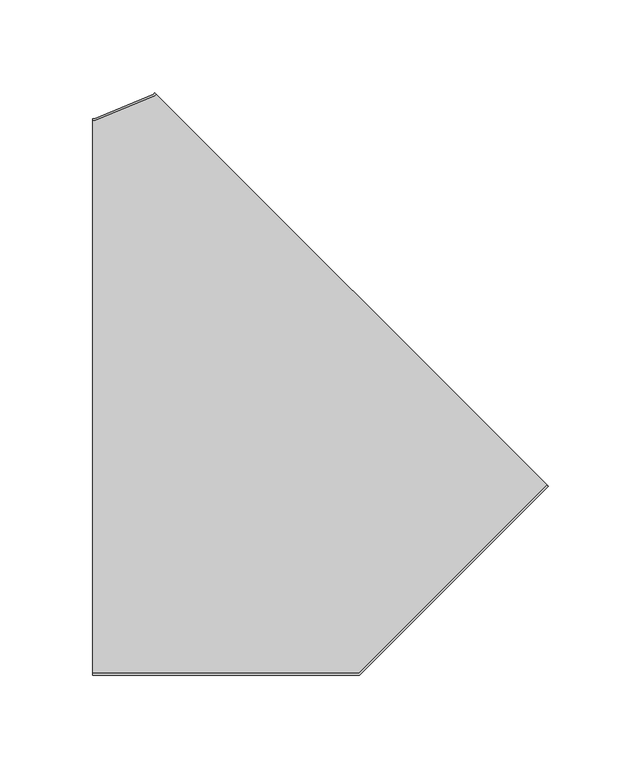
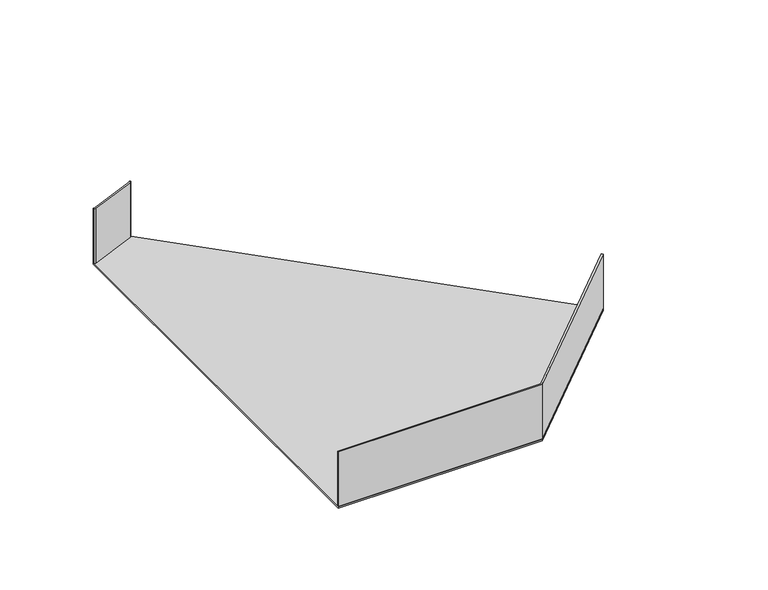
"""IFC4 building model written with IfcOpenShell, lengths in millimetres: cable carrier fitting geometry, BAKS_Horizontal bend : KKBL/KKMBL_H42."""

import ifcopenshell
import ifcopenshell.guid

model = None  # the IFC model being written
_history = None  # IfcOwnerHistory: only IFC2X3 demands one
_inside = {}  # id of a spatial element -> (the spatial element, [elements in it])
_under = {}  # id of a project, library or spatial element -> (it, [spatial elements below it])
_declared = {}  # id of a project -> (the project, [libraries it declares])
_typed = {}  # id of a type object -> (the type object, [elements of that type])
_made_of = {}  # id of a material, layer set ... -> (it, [elements and type objects made of it])


def new_model(schema):
    """Start an empty IFC model of exactly this schema.

    Asked for "IFC4X3", IfcOpenShell would pick the latest addendum, in which some entities
    have other attributes; the version numbers below select the first issue.
    IFC2X3 requires an IfcOwnerHistory on every rooted entity: one is made here for all.
    """
    global model, _history
    if schema == "IFC4X3":
        model = ifcopenshell.file(schema_version=(4, 3, 0, 0))
    else:
        model = ifcopenshell.file(schema=schema)
    _inside.clear()
    _under.clear()
    _declared.clear()
    _typed.clear()
    _made_of.clear()
    _history = None
    if model.schema == "IFC2X3":
        org = make("IfcOrganization", Name="unknown")
        user = make(
            "IfcPersonAndOrganization",
            ThePerson=make("IfcPerson", FamilyName="unknown"),
            TheOrganization=org,
        )
        app = make(
            "IfcApplication",
            ApplicationDeveloper=org,
            Version="unknown",
            ApplicationFullName="unknown",
            ApplicationIdentifier="unknown",
        )
        _history = make(
            "IfcOwnerHistory",
            OwningUser=user,
            OwningApplication=app,
            ChangeAction="ADDED",
            CreationDate=0,
        )
    return model


def make(cls, **values):
    """One entity of the class cls with the attributes given. An attribute that is None is left unset."""
    return model.create_entity(
        cls, **{name: value for name, value in values.items() if value is not None}
    )


def rooted(cls, **values):
    """An entity with a GlobalId (a new one), such as an element, a storey or a relation."""
    return make(cls, GlobalId=ifcopenshell.guid.new(), OwnerHistory=_history, **values)


def si_unit(unit_type, name, prefix=None):
    """IfcSIUnit, for example si_unit("LENGTHUNIT", "METRE", prefix="MILLI")."""
    return make("IfcSIUnit", UnitType=unit_type, Prefix=prefix, Name=name)


def assignment(units):
    """IfcUnitAssignment: the units of a project."""
    return None if units is None else make("IfcUnitAssignment", Units=units)


def point(xyz):
    """IfcCartesianPoint."""
    return None if xyz is None else make("IfcCartesianPoint", Coordinates=xyz)


def direction(xyz):
    """IfcDirection."""
    return None if xyz is None else make("IfcDirection", DirectionRatios=xyz)


def frame(location, z_axis=None, x_axis=None):
    """IfcAxis2Placement3D, a coordinate frame: its origin and axes. An axis left out is left unset."""
    return make(
        "IfcAxis2Placement3D",
        Location=point(location),
        Axis=direction(z_axis),
        RefDirection=direction(x_axis),
    )


def origin():
    """The frame at (0, 0, 0) with its axes left unset."""
    return frame((0.0, 0.0, 0.0))


def place(relative_to, where):
    """IfcLocalPlacement: puts the frame where relative to a parent placement (None: the world)."""
    return make(
        "IfcLocalPlacement", PlacementRelTo=relative_to, RelativePlacement=where
    )


def context(
    kind, dimensions, precision=None, world=None, true_north=None, identifier=None
):
    """IfcGeometricRepresentationContext, for example the 3D "Model" context."""
    return make(
        "IfcGeometricRepresentationContext",
        ContextIdentifier=identifier,
        ContextType=kind,
        CoordinateSpaceDimension=dimensions,
        Precision=precision,
        WorldCoordinateSystem=world,
        TrueNorth=true_north,
    )


def project(units=None, contexts=None):
    """IfcProject with its units and contexts."""
    return rooted(
        "IfcProject",
        Name="project",
        RepresentationContexts=contexts,
        UnitsInContext=assignment(units),
    )


def spatial(cls, under=None, at=None, **own):
    """A site, building, storey or space (cls), placed at a placement, below another one or the project."""
    s = rooted(cls, ObjectPlacement=at, **own)
    if under is not None:
        _under.setdefault(under.id(), (under, []))[1].append(s)
    return s


def polyline(points):
    """IfcPolyline through the points."""
    return make("IfcPolyline", Points=[point(p) for p in points])


def outline(outer, holes=None, kind="AREA"):
    """IfcArbitraryClosedProfileDef: a profile drawn as a closed curve; with holes, ...WithVoids."""
    if holes is None:
        return make("IfcArbitraryClosedProfileDef", ProfileType=kind, OuterCurve=outer)
    return make(
        "IfcArbitraryProfileDefWithVoids",
        ProfileType=kind,
        OuterCurve=outer,
        InnerCurves=holes,
    )


def extrude(swept, where, along, depth):
    """IfcExtrudedAreaSolid: the profile swept, set in the frame where, extruded along a direction by depth."""
    return make(
        "IfcExtrudedAreaSolid",
        SweptArea=swept,
        Position=where,
        ExtrudedDirection=direction(along),
        Depth=depth,
    )


def faces_of(points, faces, orient=None, outer=None):
    """IfcFace entities. A face is a list of loops; a loop is a list of indices into points, from 0.

    orient and outer hold one flag for each loop. By default every Orientation is true, the
    first loop of a face is its IfcFaceOuterBound and the others are IfcFaceBound.
    """
    made = []
    for i, loops in enumerate(faces):
        bounds = []
        for j, loop in enumerate(loops):
            is_outer = j == 0 if outer is None else outer[i][j]
            bounds.append(
                make(
                    "IfcFaceOuterBound" if is_outer else "IfcFaceBound",
                    Bound=make("IfcPolyLoop", Polygon=[points[k] for k in loop]),
                    Orientation=True if orient is None else orient[i][j],
                )
            )
        made.append(make("IfcFace", Bounds=bounds))
    return made


def faceted_brep(points, faces, orient=None, outer=None, voids=None):
    """IfcFacetedBrep: a solid bounded by flat faces; with voids (closed shells), ...WithVoids."""
    shared = [point(p) for p in points]
    hull = make("IfcClosedShell", CfsFaces=faces_of(shared, faces, orient, outer))
    if voids is None:
        return make("IfcFacetedBrep", Outer=hull)
    return make(
        "IfcFacetedBrepWithVoids",
        Outer=hull,
        Voids=[
            make(cls, CfsFaces=faces_of(shared, fs, o, b)) for cls, fs, o, b in voids
        ],
    )


def shape(context_of_items, identifier, shape_type, items):
    """IfcShapeRepresentation: the items that make up one representation, for example the "Body"."""
    return make(
        "IfcShapeRepresentation",
        ContextOfItems=context_of_items,
        RepresentationIdentifier=identifier,
        RepresentationType=shape_type,
        Items=items,
    )


def source(mapping_origin, context_of_items, identifier, shape_type, items):
    """IfcRepresentationMap: a shape defined once, which mapped items show again and again."""
    return make(
        "IfcRepresentationMap",
        MappingOrigin=mapping_origin,
        MappedRepresentation=shape(context_of_items, identifier, shape_type, items),
    )


def transform(
    local_origin,
    x_axis=None,
    y_axis=None,
    z_axis=None,
    scale=None,
    scale2=None,
    scale3=None,
    uniform=True,
):
    """IfcCartesianTransformationOperator3D, or its non-uniform kind. x_axis, y_axis, z_axis: its Axis1, 2, 3."""
    if uniform:
        return make(
            "IfcCartesianTransformationOperator3D",
            Axis1=direction(x_axis),
            Axis2=direction(y_axis),
            LocalOrigin=point(local_origin),
            Scale=scale,
            Axis3=direction(z_axis),
        )
    return make(
        "IfcCartesianTransformationOperator3DnonUniform",
        Axis1=direction(x_axis),
        Axis2=direction(y_axis),
        LocalOrigin=point(local_origin),
        Scale=scale,
        Axis3=direction(z_axis),
        Scale2=scale2,
        Scale3=scale3,
    )


def mapped(mapping_source, mapping_target):
    """IfcMappedItem: shows the shape of a source again, moved by a transform."""
    return make(
        "IfcMappedItem", MappingSource=mapping_source, MappingTarget=mapping_target
    )


def made_of(thing, what):
    """Note that an element or type object is made of a material, layer set ...; save() writes the relation."""
    if what is not None:
        _made_of.setdefault(what.id(), (what, []))[1].append(thing)
    return thing


def element(
    cls,
    number,
    at=None,
    inside=None,
    cuts=None,
    type_object=None,
    material=None,
    context=None,
    identifier="Body",
    shape_type=None,
    held_by="IfcProductDefinitionShape",
    body=None,
    shapes=None,
    **own,
):
    """One element of the class cls, such as IfcWall. Its Tag is "e" and its number.

    at: its placement. inside: the storey or other place that contains it. cuts: it is an
    opening in that element (IfcRelVoidsElement). A single representation is given by context,
    identifier, shape_type and body (its items); several are given by shapes. held_by: the class
    of the entity that holds the representations. save() writes the other relations.
    """
    e = rooted(cls, Tag="e%d" % number, ObjectPlacement=at, **own)
    if body is not None:
        shapes = [shape(context, identifier, shape_type, body)]
    if shapes is not None:
        e.Representation = make(held_by, Representations=shapes)
    if inside is not None:
        _inside.setdefault(inside.id(), (inside, []))[1].append(e)
    if cuts is not None:
        rooted(
            "IfcRelVoidsElement", RelatingBuildingElement=cuts, RelatedOpeningElement=e
        )
    if type_object is not None:
        _typed.setdefault(type_object.id(), (type_object, []))[1].append(e)
    return made_of(e, material)


def aggregate(whole, parts):
    """IfcRelAggregates: a whole, such as a stair, and the parts it consists of."""
    return rooted("IfcRelAggregates", RelatingObject=whole, RelatedObjects=parts)


def save(model, path):
    """Write the relations noted so far, then the file.

    IfcRelAggregates (storeys below a building ...), IfcRelContainedInSpatialStructure (elements
    in a storey), IfcRelDefinesByType, IfcRelAssociatesMaterial and IfcRelDeclares: one each for
    every whole, place, type object, material and project.
    """
    for whole, parts in _under.values():
        aggregate(whole, parts)
    for where, things in _inside.values():
        rooted(
            "IfcRelContainedInSpatialStructure",
            RelatedElements=things,
            RelatingStructure=where,
        )
    for kind, things in _typed.values():
        rooted("IfcRelDefinesByType", RelatedObjects=things, RelatingType=kind)
    for what, things in _made_of.values():
        rooted("IfcRelAssociatesMaterial", RelatedObjects=things, RelatingMaterial=what)
    for by, libraries in _declared.values():
        rooted("IfcRelDeclares", RelatingContext=by, RelatedDefinitions=libraries)
    model.write(path)


def cable_carrier_fitting_89415aa4(model_context):
    return source(origin(), model_context, "Body", "SolidModel", [
        faceted_brep([(-81.7716447, 149.0, 21.0), (-81.7716447, 150.0, 21.0), (-81.7716447, 150.0, -21.0), (-81.7716447, -150.0, -21.0), (-81.7716447, -150.0, -20.0), (-81.7716447, 149.0, -20.0), (-80.5727323, 149.0, 21.0), (-48.385385, 162.3324358, 21.0), (-47.5376259, 163.1801948, 21.0), (-48.2447327, 163.8873016, 21.0), (-48.9518395, 163.1801948, 21.0), (-80.7716447, 150.0, 21.0), (-80.7716447, 150.0, -20.0), (-80.7716447, 150.0, -21.0), (-48.9518395, 163.1801948, -21.0), (-48.2447327, 163.8873016, -21.0), (163.8873016, -48.2447327, -21.0), (62.1320344, -150.0, -21.0), (-80.5727323, 149.0, -20.0), (-48.9518395, 163.1801948, -20.0), (-48.385385, 162.3324358, -20.0), (-47.5376259, 163.1801948, -20.0), (163.8873016, -48.2447327, -20.0), (62.1320344, -150.0, -20.0)], [[[0, 1, 2, 3, 4, 5]], [[1, 0, 6, 7, 8, 9, 10, 11]], [[2, 1, 11, 12, 13]], [[3, 2, 13, 14, 15, 16, 17]], [[6, 0, 5, 18]], [[11, 10, 19, 14, 13, 12]], [[7, 6, 18, 20]], [[9, 8, 21, 22, 16, 15]], [[10, 9, 15, 14, 19]], [[8, 7, 20, 21]], [[4, 23, 22, 21, 20, 18, 5]], [[23, 4, 3, 17]], [[22, 23, 17, 16]]]),
        extrude(outline(polyline([(-81.7716447, -150.0), (-81.7716447, -149.0), (61.7178208, -149.0), (163.1801948, -47.5376259), (163.8873016, -48.2447327), (62.1320344, -150.0), (-81.7716447, -150.0)])), frame((0.0, 0.0, -21.0), z_axis=(0.0, 0.0, 1.0), x_axis=(1.0, 0.0, 0.0)), (0.0, 0.0, 1.0), 42.0),
    ])


if __name__ == "__main__":
    model = new_model("IFC4")
    model_context = context("Model", 3, world=origin())
    ifc_project = project(units=[si_unit("LENGTHUNIT", "METRE", prefix="MILLI")], contexts=[model_context])
    site = spatial("IfcSite", under=ifc_project)
    building = spatial("IfcBuilding", under=site)
    placement = place(None, origin())
    cable_carrier_fitting_shape = cable_carrier_fitting_89415aa4(model_context)
    element("IfcCableCarrierFitting", 1, ObjectType="BAKS_Horizontal bend : KKBL/KKMBL_H42", at=placement, inside=building, context=model_context, shape_type="MappedRepresentation", body=[
        mapped(cable_carrier_fitting_shape, transform((0.0, 0.0, 0.0), x_axis=(1.0, 0.0, 0.0), y_axis=(0.0, 1.0, 0.0), z_axis=(0.0, 0.0, 1.0))),
    ])
    save(model, "model.ifc")
